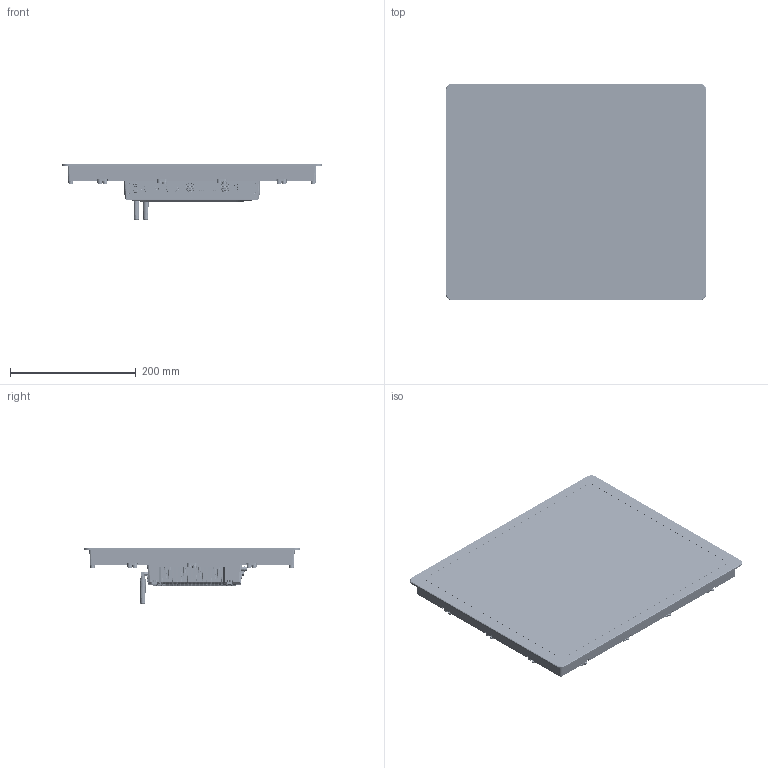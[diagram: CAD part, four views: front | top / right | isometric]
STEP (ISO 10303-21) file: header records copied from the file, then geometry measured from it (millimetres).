
FILE_DESCRIPTION(/* description */ (''),/* implementation_level */ '2;1');
FILE_NAME(/* name */ '17.0总装.stp',/* time_stamp */ '2026-03-07T09:28:43+08:00',/* author */ (''),/* organization */ (''),/* preprocessor_version */ 'ST-DEVELOPER v16',/* originating_system */ 'SIEMENS PLM Software NX 10.0',/* authorisation */ '');
FILE_SCHEMA (('AP203_CONFIGURATION_CONTROLLED_3D_DESIGN_OF_MECHANICAL_PARTS_AND_ASSEMBLIES_MIM_LF { 1 0 10303 403 2 1 2}'));
Products named in the file (1): Admi2744CC6Ai92b
Bounding box: 414 x 345 x 89.78 mm (x, y, z)
Volume: 1106596.3 mm3; surface area: 835709.4 mm2
Topology: 102 solids, 117 shells, 16039 faces, 39898 edges, 23919 vertices
Faces by surface type: cylinder 6436, plane 5948, bspline 2334, torus 467, sphere 457, cone 365, extrusion 32
Full cylindrical faces by diameter (mm): 2 x4, 2.2 x25, 3 x9, 3.1 x1, 3.2 x8, 3.5 x10, 4 x24, 4.2 x3, 5 x4, 5.5 x9, 6 x17, 6.5 x2, 6.6 x1, 6.743 x1, 6.78 x4, 7 x14, 7.306 x4, 7.5 x4, 8.429 x4, 9 x2
Entity records: 599363 total; most frequent: CARTESIAN_POINT 250724, ORIENTED_EDGE 77424, DIRECTION 66010, EDGE_CURVE 38712, VERTEX_POINT 23784, AXIS2_PLACEMENT_3D 23590, VECTOR 18830, LINE 18798
